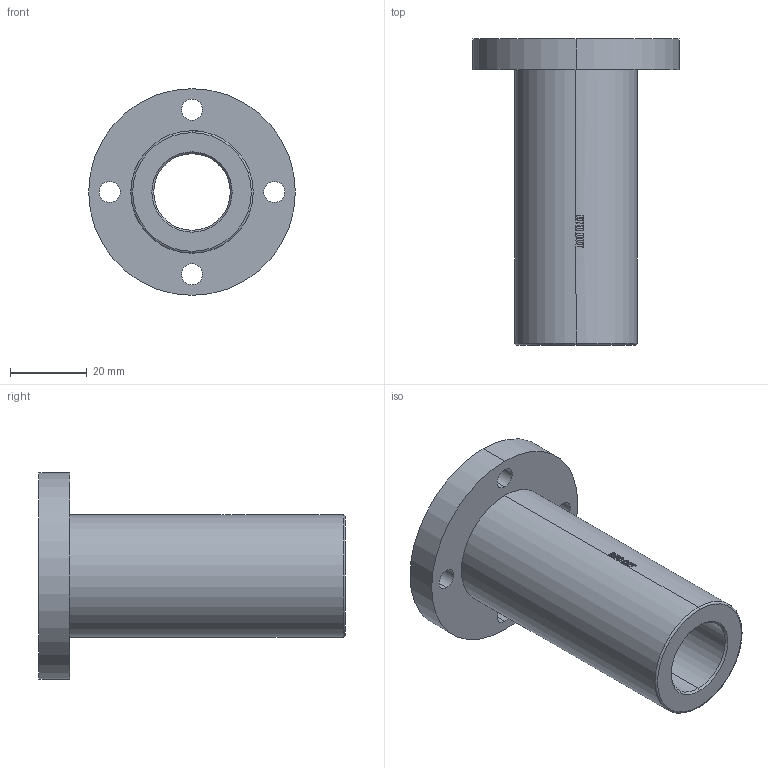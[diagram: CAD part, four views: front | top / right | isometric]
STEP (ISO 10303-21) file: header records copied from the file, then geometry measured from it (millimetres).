
FILE_DESCRIPTION (( 'STEP AP203' ), '1' );
FILE_NAME ('LMF20LUU.STEP', '2017-08-10T13:16:09', ( '' ), ( '' ), 'SwSTEP 2.0', 'SolidWorks 2017', '' );
FILE_SCHEMA (( 'CONFIG_CONTROL_DESIGN' ));
Length unit declared in the file: millimetre
Products named in the file (1): LMF20LUU
Bounding box: 54 x 80 x 54 mm (x, y, z)
Volume: 50318 mm3; surface area: 17912.4 mm2
Topology: 1 solids, 1 shells, 110 faces, 304 edges, 198 vertices
Faces by surface type: plane 48, bspline 32, cylinder 26, cone 2, torus 2
Entity records: 7297 total; most frequent: CARTESIAN_POINT 4661, ORIENTED_EDGE 608, DIRECTION 421, EDGE_CURVE 304, VERTEX_POINT 198, AXIS2_PLACEMENT_3D 165, B_SPLINE_CURVE_WITH_KNOTS 127, EDGE_LOOP 122
